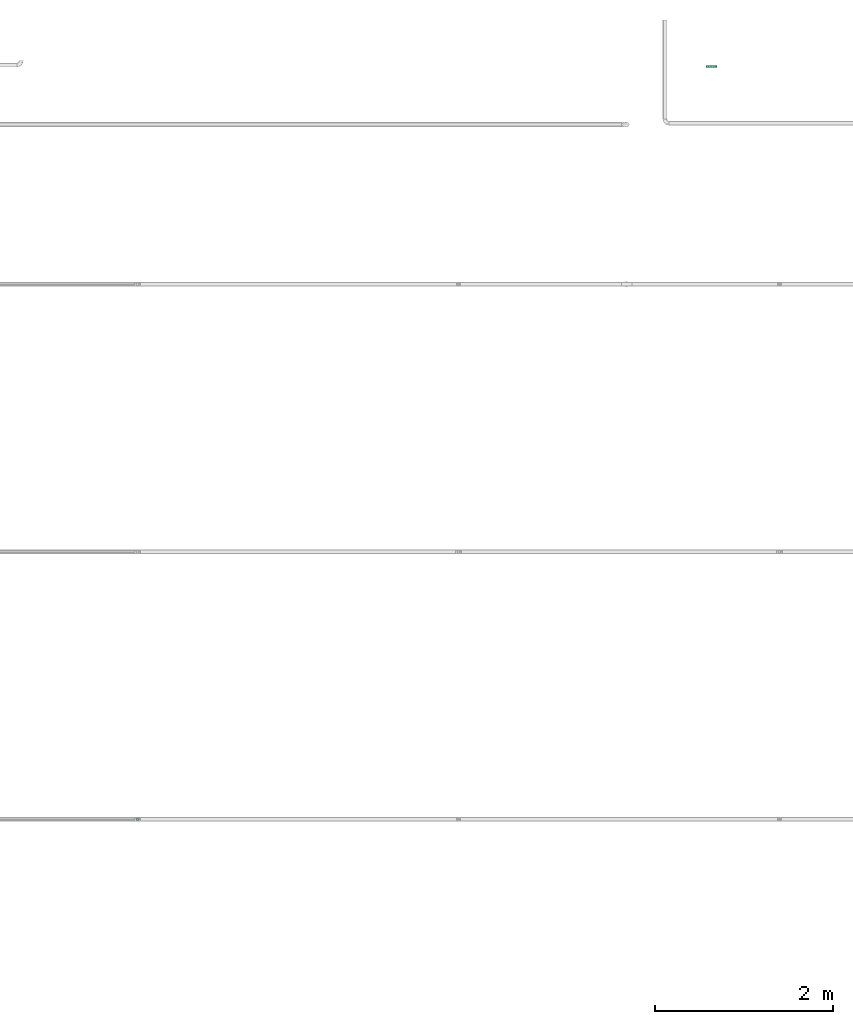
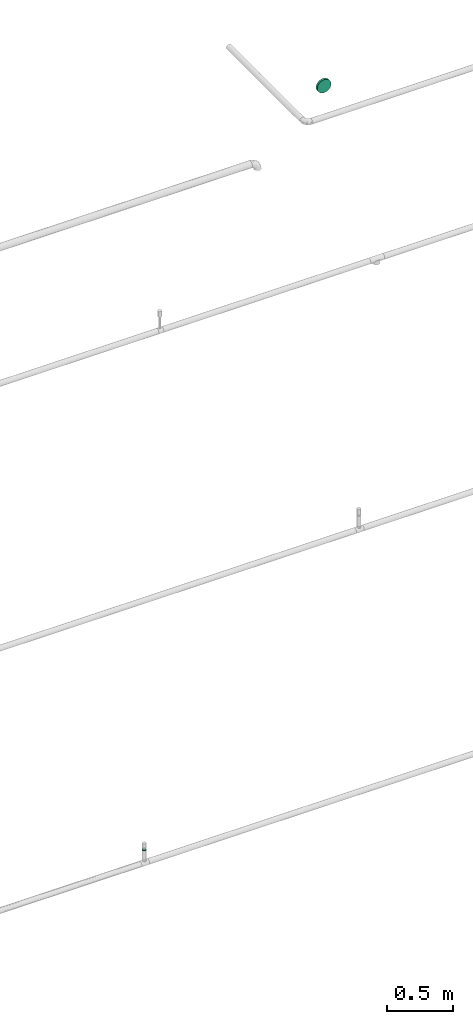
# One storey, part 8 of 14: 2 flow fittings.
"""IFC2X3 building model written with IfcOpenShell, lengths in millimetres."""

from ifc_helpers import new_model, entity, si_unit, converted_unit, derived_unit, direction, frame, origin_with_axes, place, context, subcontext, project, spatial, open_shell, surface_model, source, transform, mapped, type_object, element, save


model = new_model("IFC2X3")

# Units and contexts
model_context = context("Model", 3, precision=0.01, world=frame((0.0, 4.29681676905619e-09, 0.0)), true_north=direction((4.01073788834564e-13, 1.0)))
plan_context = context("Plan", 3, precision=0.01, world=frame((0.0, 4.29681676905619e-09, 0.0)), true_north=direction((4.01073788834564e-13, 1.0)))
body_context = subcontext(model_context, "Body", "Model", "MODEL_VIEW")
ifc_project = project(units=[converted_unit("PLANEANGLEUNIT", "DEGREE", entity("IfcPositiveLengthMeasure", 0.0174532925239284), si_unit("PLANEANGLEUNIT", "RADIAN"), dimensions=[0, 0, 0, 0, 0, 0, 0]), si_unit("AREAUNIT", "SQUARE_METRE"), si_unit("LENGTHUNIT", "METRE", prefix="MILLI"), si_unit("MASSUNIT", "GRAM", prefix="KILO"), si_unit("POWERUNIT", "WATT"), si_unit("PRESSUREUNIT", "PASCAL"), si_unit("FORCEUNIT", "NEWTON", prefix="KILO"), si_unit("ELECTRICVOLTAGEUNIT", "VOLT"), si_unit("ELECTRICCURRENTUNIT", "AMPERE"), si_unit("THERMODYNAMICTEMPERATUREUNIT", "DEGREE_CELSIUS"), si_unit("TIMEUNIT", "SECOND"), si_unit("VOLUMEUNIT", "CUBIC_METRE"), derived_unit("LINEARVELOCITYUNIT", [(si_unit("LENGTHUNIT", "METRE"), 1), (si_unit("TIMEUNIT", "SECOND"), -1)]), derived_unit("VOLUMETRICFLOWRATEUNIT", [(si_unit("VOLUMEUNIT", "CUBIC_METRE"), 1), (si_unit("TIMEUNIT", "SECOND"), -1)]), derived_unit("THERMALTRANSMITTANCEUNIT", [(si_unit("POWERUNIT", "WATT"), 1), (si_unit("THERMODYNAMICTEMPERATUREUNIT", "KELVIN"), -1), (si_unit("AREAUNIT", "SQUARE_METRE"), -1)]), derived_unit("SOUNDPRESSUREUNIT", [(si_unit("PRESSUREUNIT", "PASCAL"), 1)])], contexts=[model_context, plan_context])

# Site, building, storey
site_placement = place(None, frame((0.0, -4.29681676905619e-09, 0.0), z_axis=(0.0, 0.0, 1.0), x_axis=(1.0, 0.0, 0.0)))
site = spatial("IfcSite", under=ifc_project, at=site_placement, CompositionType="ELEMENT")
building_placement = place(site_placement, frame((0.0, 4.29681676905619e-09, 0.0), z_axis=(0.0, 0.0, 1.0), x_axis=(1.0, 0.0, 0.0)))
building = spatial("IfcBuilding", under=site, at=building_placement, Name="mc-building", CompositionType="ELEMENT")
storey_placement = place(building_placement, frame((0.0, 0.0, 204000.0), z_axis=(0.0, 0.0, 1.0), x_axis=(1.0, 0.0, 0.0)))
storey = spatial("IfcBuildingStorey", under=building, at=storey_placement, Name="Nivå D", CompositionType="ELEMENT", Elevation=204000.0)

# Flow fittings
pipe_fitting_type_1 = type_object("IfcPipeFittingType", Name="magi_pipe_fe_reducer_centric_short_NOR", PredefinedType="TRANSITION")
shared_shape_1 = source(origin_with_axes(), body_context, "Body", "SurfaceModel", [
    surface_model("IfcShellBasedSurfaceModel", [(14.4, 5.35, -9.26647), (14.4, 0.0, -10.7), (14.4, 2.76936, -10.33541), (14.4, 10.33541, -2.76936), (14.4, 7.56604, -7.56604), (14.4, -5.35, -9.26647), (14.4, 9.26647, -5.35), (14.4, -9.26647, 5.35), (14.4, -2.76936, -10.33541), (14.4, -7.56604, -7.56604), (14.4, -10.33541, -2.76936), (14.4, -9.26647, -5.35), (14.4, 10.33541, 2.76936), (14.4, 10.7, 0.0), (14.4, 9.26647, 5.35), (14.4, 7.56604, 7.56604), (14.4, 2.76936, 10.33541), (14.4, 0.0, 10.7), (14.4, 5.35, 9.26647), (14.4, -10.33541, 2.76936), (14.4, -10.7, 0.0), (14.4, -7.56604, 7.56604), (14.4, -2.76936, 10.33541), (14.4, -5.35, 9.26647), (12.4, 0.0, 10.7), (12.4, 2.76936, 10.33541), (12.4, 5.35, 9.26647), (12.4, 7.56604, 7.56604), (12.4, 9.26647, 5.35), (12.4, 10.33541, 2.76936), (12.4, -10.33541, 2.76936), (12.4, 10.33541, -2.76936), (12.4, -2.76936, 10.33541), (12.4, -7.56604, 7.56604), (12.4, -5.35, 9.26647), (12.4, -9.26647, 5.35), (12.4, -10.33541, -2.76936), (12.4, -10.7, 0.0), (12.4, 2.76936, -10.33541), (12.4, 9.26647, -5.35), (12.4, 7.56604, -7.56604), (12.4, 5.35, -9.26647), (12.4, -7.56604, -7.56604), (12.4, -9.26647, -5.35), (12.4, -5.35, -9.26647), (12.4, 0.0, -10.7), (12.4, -2.76936, -10.33541), (12.4, 10.7, 0.0), (-2.0, 11.9501, 11.9501), (-2.0, 0.0, 16.9), (-2.0, 4.37404, 16.32415), (-2.0, 8.45, 14.63583), (-2.0, 14.63583, 8.45), (-2.0, 16.32415, 4.37404), (-2.0, -16.32415, 4.37404), (-2.0, -8.45, 14.63583), (-2.0, -14.63583, 8.45), (-2.0, -11.9501, 11.9501), (-2.0, -4.37404, 16.32415), (-2.0, -16.32415, -4.37404), (-2.0, -16.9, 0.0), (-2.0, -8.45, -14.63583), (-2.0, 16.32415, -4.37404), (-2.0, 11.9501, -11.9501), (-2.0, 14.63583, -8.45), (-2.0, 8.45, -14.63583), (-2.0, 4.37404, -16.32415), (-2.0, 0.0, -16.9), (-2.0, -11.9501, -11.9501), (-2.0, -14.63583, -8.45), (-2.0, -4.37404, -16.32415), (-2.0, 16.9, 0.0), (0.0, 4.37404, -16.32415), (0.0, 8.45, -14.63583), (0.0, 11.9501, -11.9501), (0.0, 0.0, -16.9), (0.0, 16.32415, -4.37404), (0.0, 16.32415, 4.37404), (0.0, 14.63583, -8.45), (0.0, -8.45, -14.63583), (0.0, -4.37404, -16.32415), (0.0, -11.9501, -11.9501), (0.0, -16.32415, -4.37404), (0.0, -14.63583, -8.45), (0.0, -16.32415, 4.37404), (0.0, 16.9, 0.0), (0.0, 14.63583, 8.45), (0.0, 11.9501, 11.9501), (0.0, 4.37404, 16.32415), (0.0, 8.45, 14.63583), (0.0, 0.0, 16.9), (0.0, -14.63583, 8.45), (0.0, -16.9, 0.0), (0.0, -8.45, 14.63583), (0.0, -11.9501, 11.9501), (0.0, -4.37404, 16.32415), (12.4, 9.3625, -2.31662), (0.0, 14.42505, -5.97505), (0.0, 15.66253, -2.98753), (12.4, -6.6875, -6.94985), (0.0, -13.18758, -8.96258), (0.0, 2.98753, -15.66253), (12.4, 0.0, -9.26647), (12.4, 6.6875, -6.94985), (0.0, 8.96258, -13.18758), (12.4, -9.3625, -2.31662), (0.0, -15.66253, -2.98753), (0.0, -14.42505, -5.97505), (0.0, 5.97505, -14.42505), (0.0, -2.98753, -15.66253), (0.0, -8.96258, -13.18758), (0.0, 13.18758, -8.96258), (12.4, 8.025, -4.63324), (12.4, -2.675, -9.26647), (12.4, 2.675, -9.26647), (0.0, -5.97505, -14.42505), (12.4, -8.025, -4.63324), (12.4, -9.3625, 2.31662), (0.0, -14.42505, 5.97505), (0.0, -15.66253, 2.98753), (12.4, 6.6875, 6.94985), (0.0, 13.18758, 8.96258), (0.0, -2.98753, 15.66253), (12.4, 0.0, 9.26647), (12.4, -6.6875, 6.94985), (0.0, -8.96258, 13.18758), (12.4, 9.3625, 2.31662), (0.0, 15.66253, 2.98753), (0.0, 14.42505, 5.97505), (0.0, -5.97505, 14.42505), (0.0, 2.98753, 15.66253), (0.0, 8.96258, 13.18758), (0.0, -13.18758, 8.96258), (12.4, -8.025, 4.63324), (12.4, 2.675, 9.26647), (12.4, -2.675, 9.26647), (0.0, 5.97505, 14.42505), (12.4, 8.025, 4.63324)], [open_shell([[[0, 1, 2]], [[3, 0, 4]], [[5, 0, 3]], [[3, 4, 6]], [[7, 5, 3]], [[1, 5, 8]], [[1, 0, 5]], [[9, 10, 11]], [[10, 9, 5]], [[5, 7, 10]], [[12, 3, 13]], [[12, 14, 15]], [[3, 15, 7]], [[16, 17, 15]], [[16, 15, 18]], [[7, 15, 17]], [[10, 19, 20]], [[7, 19, 10]], [[21, 22, 23]], [[22, 21, 7]], [[17, 22, 7]], [[3, 12, 15]], [[24, 25, 26]], [[24, 26, 27]], [[27, 28, 29]], [[24, 27, 30]], [[31, 30, 27]], [[32, 33, 34]], [[33, 32, 30]], [[33, 30, 35]], [[32, 24, 30]], [[30, 36, 37]], [[31, 27, 29]], [[36, 30, 31]], [[38, 31, 39]], [[40, 41, 38]], [[40, 38, 39]], [[36, 31, 38]], [[36, 42, 43]], [[42, 36, 44]], [[44, 45, 46]], [[44, 36, 38]], [[38, 45, 44]], [[31, 29, 47]], [[36, 10, 37]], [[43, 11, 36]], [[5, 42, 44]], [[43, 42, 9]], [[8, 44, 46]], [[36, 11, 10]], [[10, 20, 37]], [[8, 5, 44]], [[9, 42, 5]], [[9, 11, 43]], [[1, 8, 46]], [[46, 45, 1]], [[38, 2, 45]], [[41, 0, 38]], [[6, 40, 39]], [[41, 40, 4]], [[3, 39, 31]], [[41, 4, 0]], [[0, 2, 38]], [[13, 3, 31]], [[6, 39, 3]], [[6, 4, 40]], [[47, 13, 31]], [[45, 2, 1]], [[29, 12, 47]], [[28, 14, 29]], [[18, 27, 26]], [[28, 27, 15]], [[16, 26, 25]], [[29, 14, 12]], [[12, 13, 47]], [[16, 18, 26]], [[15, 27, 18]], [[15, 14, 28]], [[17, 16, 25]], [[25, 24, 17]], [[32, 22, 24]], [[34, 23, 32]], [[7, 33, 35]], [[34, 33, 21]], [[19, 35, 30]], [[34, 21, 23]], [[23, 22, 32]], [[20, 19, 30]], [[7, 35, 19]], [[7, 21, 33]], [[37, 20, 30]], [[24, 22, 17]], [[48, 49, 50]], [[48, 50, 51]], [[48, 52, 53]], [[48, 53, 49]], [[49, 53, 54]], [[55, 56, 57]], [[55, 58, 49]], [[56, 55, 49]], [[49, 54, 56]], [[54, 59, 60]], [[54, 53, 61]], [[53, 62, 63]], [[63, 62, 64]], [[63, 65, 66]], [[61, 53, 63]], [[67, 63, 66]], [[59, 68, 69]], [[68, 59, 61]], [[61, 67, 70]], [[59, 54, 61]], [[63, 67, 61]], [[53, 71, 62]], [[72, 73, 74]], [[75, 72, 74]], [[74, 76, 77]], [[76, 74, 78]], [[74, 77, 79]], [[75, 79, 80]], [[75, 74, 79]], [[81, 82, 83]], [[82, 81, 79]], [[79, 84, 82]], [[77, 76, 85]], [[77, 86, 87]], [[77, 87, 88]], [[88, 84, 79]], [[88, 87, 89]], [[84, 88, 90]], [[90, 91, 84]], [[92, 82, 84]], [[91, 93, 94]], [[91, 90, 93]], [[93, 90, 95]], [[79, 77, 88]], [[59, 82, 60]], [[69, 83, 59]], [[79, 68, 61]], [[69, 68, 81]], [[80, 61, 70]], [[59, 83, 82]], [[82, 92, 60]], [[80, 79, 61]], [[81, 68, 79]], [[81, 83, 69]], [[75, 80, 70]], [[70, 67, 75]], [[66, 72, 67]], [[65, 73, 66]], [[78, 63, 64]], [[65, 63, 74]], [[76, 64, 62]], [[65, 74, 73]], [[73, 72, 66]], [[85, 76, 62]], [[78, 64, 76]], [[78, 74, 63]], [[71, 85, 62]], [[67, 72, 75]], [[53, 77, 71]], [[52, 86, 53]], [[89, 48, 51]], [[52, 48, 87]], [[88, 51, 50]], [[53, 86, 77]], [[77, 85, 71]], [[88, 89, 51]], [[87, 48, 89]], [[87, 86, 52]], [[90, 88, 50]], [[50, 49, 90]], [[58, 95, 49]], [[55, 93, 58]], [[91, 57, 56]], [[55, 57, 94]], [[84, 56, 54]], [[55, 94, 93]], [[93, 95, 58]], [[92, 84, 54]], [[91, 56, 84]], [[91, 94, 57]], [[60, 92, 54]], [[49, 95, 90]], [[26, 34, 47]], [[47, 34, 44]], [[44, 41, 47]], [[44, 34, 37]], [[90, 87, 92]], [[92, 94, 90]], [[87, 74, 92]], [[75, 92, 74]], [[81, 92, 75]], [[74, 87, 85]], [[96, 97, 98]], [[81, 99, 100]], [[101, 102, 75]], [[98, 85, 47]], [[74, 103, 104]], [[104, 103, 41]], [[105, 106, 107]], [[41, 108, 104]], [[102, 109, 75]], [[110, 99, 81]], [[47, 96, 98]], [[103, 111, 112]], [[109, 102, 113]], [[37, 92, 106]], [[102, 101, 114]], [[110, 115, 44]], [[96, 112, 97]], [[107, 116, 105]], [[37, 106, 105]], [[113, 115, 109]], [[44, 115, 113]], [[116, 107, 100]], [[108, 41, 114]], [[111, 103, 74]], [[111, 97, 112]], [[99, 110, 44]], [[116, 100, 99]], [[101, 108, 114]], [[117, 118, 119]], [[87, 120, 121]], [[122, 123, 90]], [[119, 92, 37]], [[94, 124, 125]], [[125, 124, 34]], [[126, 127, 128]], [[34, 129, 125]], [[123, 130, 90]], [[131, 120, 87]], [[37, 117, 119]], [[124, 132, 133]], [[130, 123, 134]], [[47, 85, 127]], [[123, 122, 135]], [[131, 136, 26]], [[117, 133, 118]], [[128, 137, 126]], [[47, 127, 126]], [[134, 136, 130]], [[26, 136, 134]], [[137, 128, 121]], [[129, 34, 135]], [[132, 124, 94]], [[132, 118, 133]], [[120, 131, 26]], [[137, 121, 120]], [[122, 129, 135]]])]),
])
flow_fitting_1_placement = place(storey_placement, frame((601000.0, 690802.46783, 6260.64799999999), z_axis=(0.0, 1.0, 0.0), x_axis=(0.0, 0.0, 1.0)))
element("IfcFlowFitting", 1, at=flow_fitting_1_placement, inside=storey, type_object=pipe_fitting_type_1, Name="magi_pipe_fe_reducer_centric_short_NOR", context=body_context, shape_type="MappedRepresentation", body=[
    mapped(shared_shape_1, transform((0.0, 0.0, 0.0), scale=1.0)),
])
pipe_fitting_type_2 = type_object("IfcPipeFittingType", Name="magi_sewer_endcap_001", PredefinedType="OBSTRUCTION")
shared_shape_2 = source(origin_with_axes(), body_context, "Body", "SurfaceModel", [
    surface_model("IfcShellBasedSurfaceModel", [(20.0, 30.0, -51.96152), (20.0, -42.42641, -42.42641), (20.0, 15.52914, -57.95555), (20.0, 51.96152, -30.0), (20.0, 42.42641, -42.42641), (20.0, 57.95555, -15.52914), (20.0, 60.0, 0.0), (20.0, 0.0, -60.0), (20.0, -30.0, -51.96152), (20.0, -15.52914, -57.95555), (20.0, 57.95555, 15.52914), (20.0, -51.96152, -30.0), (20.0, -60.0, 0.0), (20.0, -57.95555, -15.52914), (20.0, 51.96152, 30.0), (20.0, 42.42641, 42.42641), (20.0, 15.52914, 57.95555), (20.0, 0.0, 60.0), (20.0, 30.0, 51.96152), (20.0, -51.96152, 30.0), (20.0, -57.95555, 15.52914), (20.0, -30.0, 51.96152), (20.0, -42.42641, 42.42641), (20.0, -15.52914, 57.95555), (0.0, 42.42641, 42.42641), (0.0, 0.0, 60.0), (0.0, 15.52914, 57.95555), (0.0, 30.0, 51.96152), (0.0, 51.96152, 30.0), (0.0, 57.95555, 15.52914), (0.0, -60.0, 0.0), (0.0, -30.0, 51.96152), (0.0, -51.96152, 30.0), (0.0, -42.42641, 42.42641), (0.0, -15.52914, 57.95555), (0.0, -57.95555, 15.52914), (0.0, -51.96152, -30.0), (0.0, -42.42641, -42.42641), (0.0, 57.95555, -15.52914), (0.0, 42.42641, -42.42641), (0.0, 51.96152, -30.0), (0.0, 30.0, -51.96152), (0.0, 15.52914, -57.95555), (0.0, -57.95555, -15.52914), (0.0, -30.0, -51.96152), (0.0, 0.0, -60.0), (0.0, -15.52914, -57.95555), (0.0, 60.0, 0.0)], [open_shell([[[0, 1, 2]], [[3, 0, 4]], [[5, 6, 0]], [[5, 0, 3]], [[1, 0, 6]], [[7, 8, 9]], [[8, 7, 1]], [[2, 1, 7]], [[1, 10, 11]], [[11, 12, 13]], [[10, 1, 6]], [[10, 14, 15]], [[12, 10, 15]], [[16, 17, 15]], [[16, 15, 18]], [[19, 15, 17]], [[12, 19, 20]], [[12, 15, 19]], [[19, 21, 22]], [[19, 17, 21]], [[23, 21, 17]], [[10, 12, 11]], [[24, 25, 26]], [[24, 26, 27]], [[24, 28, 29]], [[25, 24, 30]], [[30, 24, 29]], [[31, 32, 33]], [[31, 34, 25]], [[32, 30, 35]], [[31, 25, 32]], [[25, 30, 32]], [[29, 36, 30]], [[37, 29, 38]], [[39, 38, 40]], [[41, 42, 38]], [[41, 38, 39]], [[37, 38, 42]], [[37, 36, 29]], [[43, 30, 36]], [[44, 45, 46]], [[45, 44, 37]], [[45, 37, 42]], [[47, 38, 29]], [[43, 13, 30]], [[36, 11, 43]], [[8, 37, 44]], [[36, 37, 1]], [[9, 44, 46]], [[43, 11, 13]], [[13, 12, 30]], [[9, 8, 44]], [[1, 37, 8]], [[1, 11, 36]], [[7, 9, 46]], [[46, 45, 7]], [[42, 2, 45]], [[41, 0, 42]], [[3, 39, 40]], [[41, 39, 4]], [[5, 40, 38]], [[41, 4, 0]], [[0, 2, 42]], [[6, 5, 38]], [[3, 40, 5]], [[3, 4, 39]], [[47, 6, 38]], [[45, 2, 7]], [[29, 10, 47]], [[28, 14, 29]], [[18, 24, 27]], [[28, 24, 15]], [[16, 27, 26]], [[29, 14, 10]], [[10, 6, 47]], [[16, 18, 27]], [[15, 24, 18]], [[15, 14, 28]], [[17, 16, 26]], [[26, 25, 17]], [[34, 23, 25]], [[31, 21, 34]], [[19, 33, 32]], [[31, 33, 22]], [[20, 32, 35]], [[31, 22, 21]], [[21, 23, 34]], [[12, 20, 35]], [[19, 32, 20]], [[19, 22, 33]], [[30, 12, 35]], [[25, 23, 17]]])]),
])
flow_fitting_2_placement = place(storey_placement, frame((607435.09894, 699254.06779, 5920.15283000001), z_axis=(0.0, 1.49999999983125e-05, 0.9999999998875), x_axis=(0.0, -0.9999999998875, 1.49999999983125e-05)))
element("IfcFlowFitting", 2, at=flow_fitting_2_placement, inside=storey, type_object=pipe_fitting_type_2, Name="magi_sewer_endcap_001", context=body_context, shape_type="MappedRepresentation", body=[
    mapped(shared_shape_2, transform((0.0, 0.0, 0.0), scale=1.0)),
])

save(model, "model.ifc")
